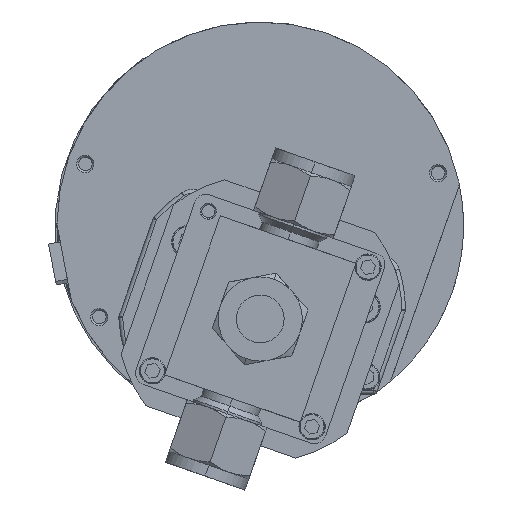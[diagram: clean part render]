
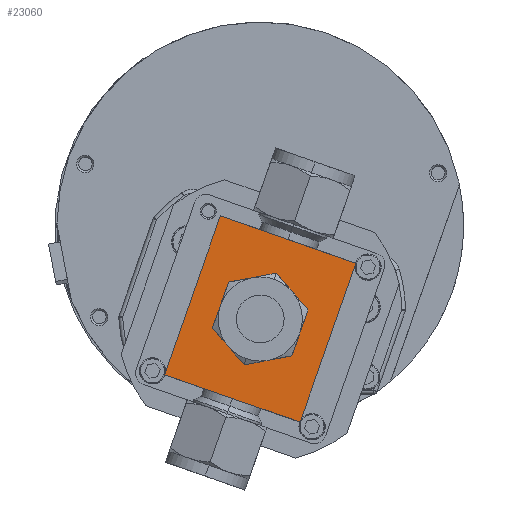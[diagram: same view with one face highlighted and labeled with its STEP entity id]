
A CAD part, front view. The second image highlights one B-rep face of the part: STEP entity #23060.
In plain terms, the highlighted planar face has unit normal (0, -1, 0) as drawn and (0, 0, -1) by its records, which use the part's own axes.
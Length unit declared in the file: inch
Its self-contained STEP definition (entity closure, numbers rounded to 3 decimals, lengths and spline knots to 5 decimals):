
#206 = AXIS2_PLACEMENT_3D ( 'NONE', #31506, #9335, #19180 ) ;
#230 = VERTEX_POINT ( 'NONE', #1306 ) ;
#799 = VERTEX_POINT ( 'NONE', #2515 ) ;
#1306 = CARTESIAN_POINT ( 'NONE',  ( -0.31545, 0., 0. ) ) ;
#1627 = VECTOR ( 'NONE', #29007, 39.37008 ) ;
#2515 = CARTESIAN_POINT ( 'NONE',  ( 0.88, -0.75, 0. ) ) ;
#3100 = LINE ( 'NONE', #12969, #25025 ) ;
#3315 = DIRECTION ( 'NONE',  ( 0., 0., 1. ) ) ;
#3459 = DIRECTION ( 'NONE',  ( -1., 0., 0. ) ) ;
#3654 = EDGE_CURVE ( 'NONE', #230, #9216, #25014, .T. ) ;
#4284 = EDGE_LOOP ( 'NONE', ( #28472, #25229 ) ) ;
#4509 = ORIENTED_EDGE ( 'NONE', *, *, #20446, .T. ) ;
#4568 = VERTEX_POINT ( 'NONE', #21520 ) ;
#5756 = FACE_BOUND ( 'NONE', #4284, .T. ) ;
#6185 = VERTEX_POINT ( 'NONE', #27199 ) ;
#6682 = LINE ( 'NONE', #16535, #17484 ) ;
#6799 = ORIENTED_EDGE ( 'NONE', *, *, #17278, .T. ) ;
#7076 = DIRECTION ( 'NONE',  ( -1., 0., 0. ) ) ;
#8902 = VECTOR ( 'NONE', #7076, 39.37008 ) ;
#9216 = VERTEX_POINT ( 'NONE', #11400 ) ;
#9248 = LINE ( 'NONE', #19104, #1627 ) ;
#9335 = DIRECTION ( 'NONE',  ( 0., 0., 1. ) ) ;
#10680 = CARTESIAN_POINT ( 'NONE',  ( -0.88, -0.75, 0. ) ) ;
#11019 = AXIS2_PLACEMENT_3D ( 'NONE', #15746, #25677, #3459 ) ;
#11400 = CARTESIAN_POINT ( 'NONE',  ( 0.31545, 0., 0. ) ) ;
#12079 = VERTEX_POINT ( 'NONE', #10680 ) ;
#12969 = CARTESIAN_POINT ( 'NONE',  ( -0.88, 0., 0. ) ) ;
#13180 = DIRECTION ( 'NONE',  ( 1., 0., 0. ) ) ;
#15601 = PLANE ( 'NONE',  #18005 ) ;
#15746 = CARTESIAN_POINT ( 'NONE',  ( 0., 0., 0. ) ) ;
#16535 = CARTESIAN_POINT ( 'NONE',  ( 0.88, 0., 0. ) ) ;
#17278 = EDGE_CURVE ( 'NONE', #4568, #799, #6682, .T. ) ;
#17350 = ORIENTED_EDGE ( 'NONE', *, *, #24798, .T. ) ;
#17484 = VECTOR ( 'NONE', #26455, 39.37008 ) ;
#18005 = AXIS2_PLACEMENT_3D ( 'NONE', #25533, #3315, #13180 ) ;
#18941 = EDGE_CURVE ( 'NONE', #6185, #4568, #9248, .T. ) ;
#19104 = CARTESIAN_POINT ( 'NONE',  ( 0., 0.75, 0. ) ) ;
#19180 = DIRECTION ( 'NONE',  ( -1., 0., 0. ) ) ;
#19364 = LINE ( 'NONE', #29270, #8902 ) ;
#20446 = EDGE_CURVE ( 'NONE', #12079, #6185, #3100, .T. ) ;
#21520 = CARTESIAN_POINT ( 'NONE',  ( 0.88, 0.75, 0. ) ) ;
#22874 = DIRECTION ( 'NONE',  ( 0., 1., 0. ) ) ;
#23060 = ADVANCED_FACE ( 'NONE', ( #27941, #5756 ), #15601, .F. ) ;
#24752 = ORIENTED_EDGE ( 'NONE', *, *, #18941, .T. ) ;
#24798 = EDGE_CURVE ( 'NONE', #799, #12079, #19364, .T. ) ;
#25014 = CIRCLE ( 'NONE', #11019, 0.31545 ) ;
#25025 = VECTOR ( 'NONE', #22874, 39.37008 ) ;
#25229 = ORIENTED_EDGE ( 'NONE', *, *, #27193, .T. ) ;
#25533 = CARTESIAN_POINT ( 'NONE',  ( 0., 0., 0. ) ) ;
#25677 = DIRECTION ( 'NONE',  ( 0., 0., 1. ) ) ;
#26447 = EDGE_LOOP ( 'NONE', ( #6799, #17350, #4509, #24752 ) ) ;
#26455 = DIRECTION ( 'NONE',  ( 0., -1., 0. ) ) ;
#27193 = EDGE_CURVE ( 'NONE', #9216, #230, #28161, .T. ) ;
#27199 = CARTESIAN_POINT ( 'NONE',  ( -0.88, 0.75, 0. ) ) ;
#27941 = FACE_OUTER_BOUND ( 'NONE', #26447, .T. ) ;
#28161 = CIRCLE ( 'NONE', #206, 0.31545 ) ;
#28472 = ORIENTED_EDGE ( 'NONE', *, *, #3654, .T. ) ;
#29007 = DIRECTION ( 'NONE',  ( 1., 0., 0. ) ) ;
#29270 = CARTESIAN_POINT ( 'NONE',  ( 0., -0.75, 0. ) ) ;
#31506 = CARTESIAN_POINT ( 'NONE',  ( 0., 0., 0. ) ) ;
